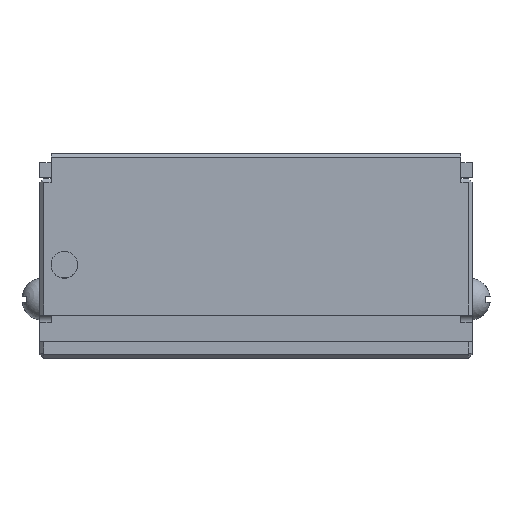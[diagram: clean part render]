
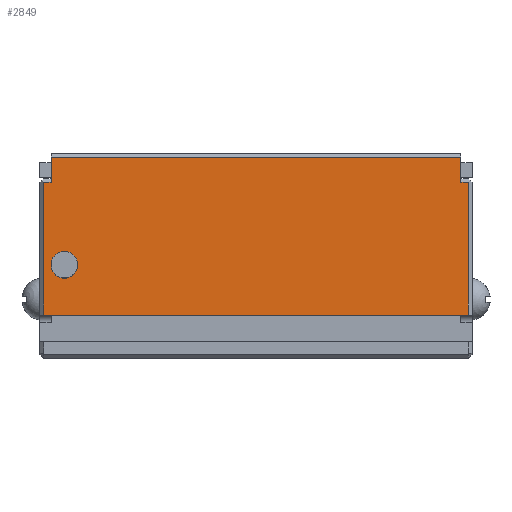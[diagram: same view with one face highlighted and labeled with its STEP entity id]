
A CAD part, top view. The second image highlights one B-rep face of the part: STEP entity #2849.
In plain terms, the highlighted planar face has unit normal (0, 0, 1) as drawn and (1, 0, 0) by its records, which use the part's own axes.
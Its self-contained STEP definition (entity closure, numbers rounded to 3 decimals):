
#332=DIRECTION('',(0.,1.,0.));
#333=VECTOR('',#332,17.499);
#334=CARTESIAN_POINT('',(9.,-4.3,-28.));
#335=LINE('',#334,#333);
#450=DIRECTION('',(0.,-1.,0.));
#451=VECTOR('',#450,3.303);
#452=CARTESIAN_POINT('',(9.,16.5,27.));
#453=LINE('',#452,#451);
#755=DIRECTION('',(0.,0.,1.));
#756=VECTOR('',#755,1.);
#757=CARTESIAN_POINT('',(9.,13.197,27.));
#758=LINE('',#757,#756);
#759=CARTESIAN_POINT('',(9.,2.3,25.25));
#760=DIRECTION('',(1.,0.,0.));
#761=DIRECTION('',(0.,0.,-1.));
#762=AXIS2_PLACEMENT_3D('',#759,#760,#761);
#764=CARTESIAN_POINT('',(9.,2.3,25.25));
#765=DIRECTION('',(1.,0.,0.));
#766=DIRECTION('',(0.,0.,1.));
#767=AXIS2_PLACEMENT_3D('',#764,#765,#766);
#769=DIRECTION('',(0.,0.,-1.));
#770=VECTOR('',#769,54.);
#771=CARTESIAN_POINT('',(9.,16.5,27.));
#772=LINE('',#771,#770);
#773=DIRECTION('',(0.,-1.,0.));
#774=VECTOR('',#773,3.301);
#775=CARTESIAN_POINT('',(9.,16.5,-27.));
#776=LINE('',#775,#774);
#777=DIRECTION('',(0.,0.,-1.));
#778=VECTOR('',#777,1.);
#779=CARTESIAN_POINT('',(9.,13.199,-27.));
#780=LINE('',#779,#778);
#803=DIRECTION('',(0.,0.,-1.));
#804=VECTOR('',#803,56.);
#805=CARTESIAN_POINT('',(9.,-4.3,28.));
#806=LINE('',#805,#804);
#1435=DIRECTION('',(0.,-1.,0.));
#1436=VECTOR('',#1435,17.497);
#1437=CARTESIAN_POINT('',(9.,13.197,28.));
#1438=LINE('',#1437,#1436);
#1613=CARTESIAN_POINT('',(9.,16.5,-27.));
#1615=VERTEX_POINT('',#1613);
#1627=CARTESIAN_POINT('',(9.,16.5,27.));
#1628=VERTEX_POINT('',#1627);
#1629=CARTESIAN_POINT('',(9.,2.3,27.));
#1631=VERTEX_POINT('',#1629);
#1635=CARTESIAN_POINT('',(9.,2.3,23.5));
#1636=VERTEX_POINT('',#1635);
#1741=CARTESIAN_POINT('',(9.,13.199,-28.));
#1743=VERTEX_POINT('',#1741);
#1745=CARTESIAN_POINT('',(9.,-4.3,-28.));
#1746=VERTEX_POINT('',#1745);
#1785=CARTESIAN_POINT('',(9.,13.199,-27.));
#1787=VERTEX_POINT('',#1785);
#1932=CARTESIAN_POINT('',(9.,13.197,28.));
#1934=VERTEX_POINT('',#1932);
#1935=CARTESIAN_POINT('',(9.,-4.3,28.));
#1936=VERTEX_POINT('',#1935);
#1999=CARTESIAN_POINT('',(9.,13.197,27.));
#2000=VERTEX_POINT('',#1999);
#2825=CARTESIAN_POINT('',(9.,-4.3,-27.));
#2826=DIRECTION('',(1.,0.,0.));
#2827=DIRECTION('',(0.,1.,0.));
#2828=AXIS2_PLACEMENT_3D('',#2825,#2826,#2827);
#2829=PLANE('',#2828);
#2831=ORIENTED_EDGE('',*,*,#2830,.F.);
#2833=ORIENTED_EDGE('',*,*,#2832,.F.);
#2834=ORIENTED_EDGE('',*,*,#2816,.F.);
#2835=ORIENTED_EDGE('',*,*,#2483,.F.);
#2837=ORIENTED_EDGE('',*,*,#2836,.T.);
#2838=ORIENTED_EDGE('',*,*,#2030,.T.);
#2839=ORIENTED_EDGE('',*,*,#2375,.T.);
#2840=ORIENTED_EDGE('',*,*,#2359,.F.);
#2841=EDGE_LOOP('',(#2831,#2833,#2834,#2835,#2837,#2838,#2839,#2840));
#2842=FACE_OUTER_BOUND('',#2841,.F.);
#2844=ORIENTED_EDGE('',*,*,#2843,.T.);
#2846=ORIENTED_EDGE('',*,*,#2845,.T.);
#2847=EDGE_LOOP('',(#2844,#2846));
#2848=FACE_BOUND('',#2847,.F.);
#763=CIRCLE('',#762,1.75);
#768=CIRCLE('',#767,1.75);
#2030=EDGE_CURVE('',#1615,#1787,#776,.T.);
#2359=EDGE_CURVE('',#1746,#1743,#335,.T.);
#2375=EDGE_CURVE('',#1787,#1743,#780,.T.);
#2483=EDGE_CURVE('',#1628,#2000,#453,.T.);
#2816=EDGE_CURVE('',#2000,#1934,#758,.T.);
#2830=EDGE_CURVE('',#1936,#1746,#806,.T.);
#2832=EDGE_CURVE('',#1934,#1936,#1438,.T.);
#2836=EDGE_CURVE('',#1628,#1615,#772,.T.);
#2843=EDGE_CURVE('',#1636,#1631,#763,.T.);
#2845=EDGE_CURVE('',#1631,#1636,#768,.T.);
#2849=ADVANCED_FACE('',(#2842,#2848),#2829,.T.);
